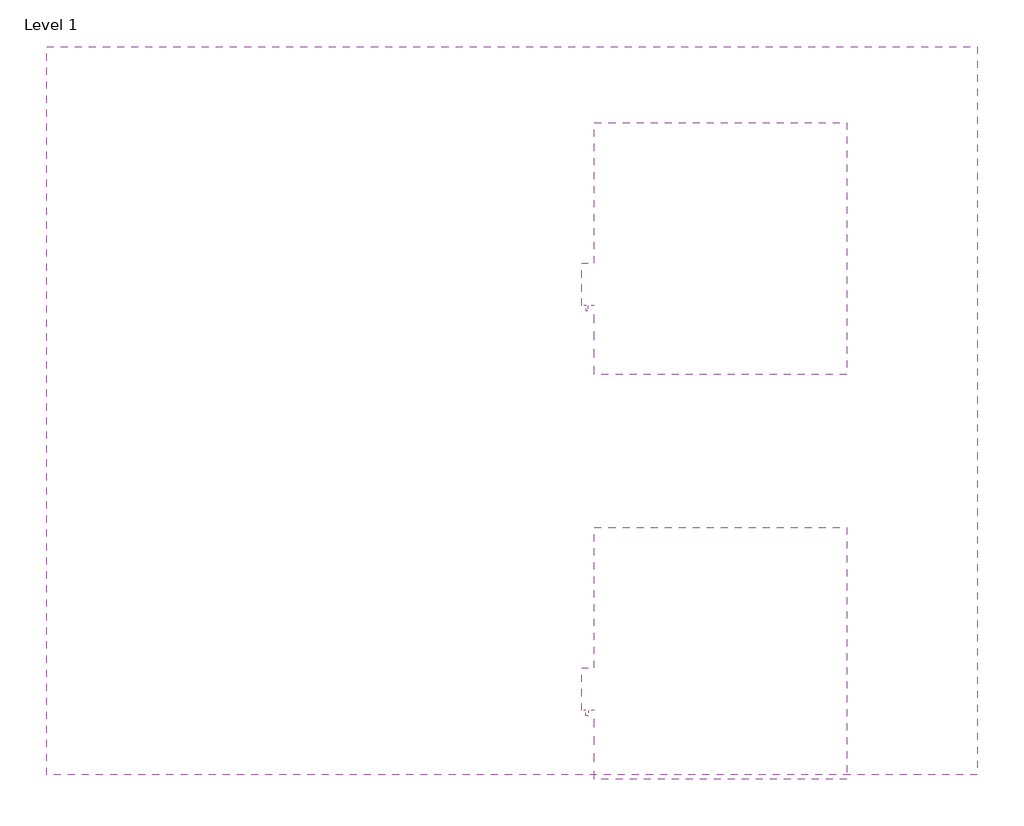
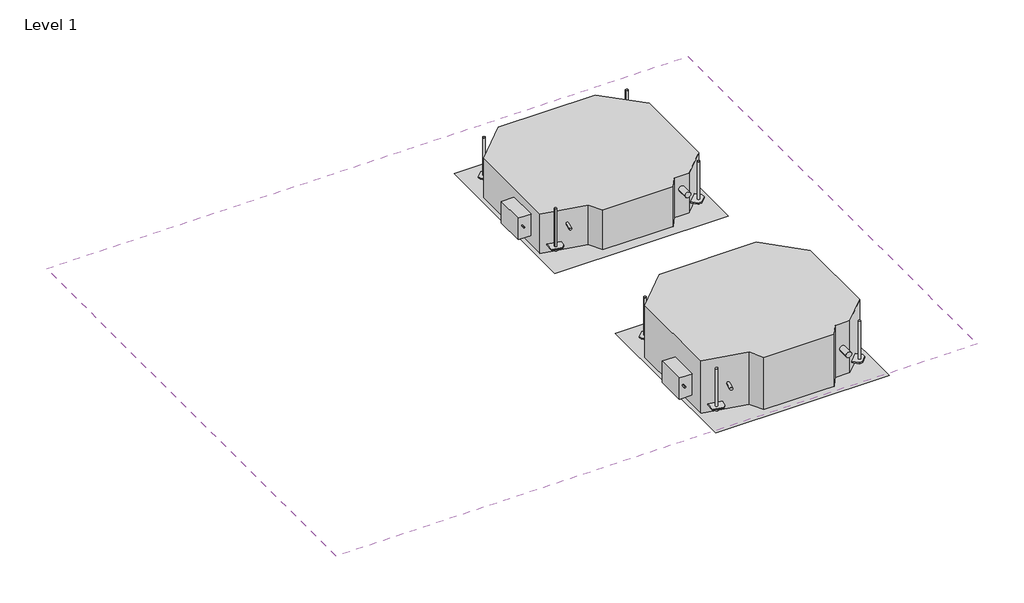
# One storey: 2 proxies, 1 covering.
"""IFC4 building model written with IfcOpenShell, lengths in millimetres."""

from ifc_helpers import new_model, si_unit, frame, origin, place, context, project, spatial, polyline, outline, extrude, transform, mapped, element, save
from components import proxy_48000_btu_h_e7defc70, proxy_9000_btu_h_d08c018a

model = new_model("IFC4")

# Units and contexts
model_context = context("Model", 3, world=origin())
ifc_project = project(units=[si_unit("LENGTHUNIT", "METRE", prefix="MILLI")], contexts=[model_context])

# Site, building, storey
site = spatial("IfcSite", under=ifc_project)
building = spatial("IfcBuilding", under=site)
storey = spatial("IfcBuildingStorey", under=building, Name="Level 1", Elevation=0.0)

# Proxies
placement = place(None, origin())
proxy_48000_btu_h_shape = proxy_48000_btu_h_e7defc70(model_context)
element("IfcBuildingElementProxy", 1, Name="Lennox-VRF-Ceiling_Compact-Cassette-V33A-2P_Series : 48000 Btu/h", ObjectType="Lennox-VRF-Ceiling_Compact-Cassette-V33A-2P_Series : 48000 Btu/h", at=placement, inside=storey, context=model_context, shape_type="MappedRepresentation", body=[
    mapped(proxy_48000_btu_h_shape, transform((4972.3305688, 741.1791027, 2438.4), x_axis=(1.0, 0.0, 0.0), y_axis=(0.0, -1.0, 0.0), z_axis=(0.0, 0.0, -1.0))),
])
proxy_9000_btu_h_shape = proxy_9000_btu_h_d08c018a(model_context)
element("IfcBuildingElementProxy", 2, Name="Lennox-VRF-Ceiling_Compact-Cassette-V33A-2P_Series : 9000 Btu/h", ObjectType="Lennox-VRF-Ceiling_Compact-Cassette-V33A-2P_Series : 9000 Btu/h", at=placement, inside=storey, context=model_context, shape_type="MappedRepresentation", body=[
    mapped(proxy_9000_btu_h_shape, transform((4972.3305688, 2265.1791027, 2438.4), x_axis=(1.0, 0.0, 0.0), y_axis=(0.0, -1.0, 0.0), z_axis=(0.0, 0.0, -1.0))),
])

# Covering
element("IfcCovering", 3, ObjectType="2' x 4' ACT System", at=placement, inside=storey, context=model_context, shape_type="SweptSolid", body=[
    extrude(outline(polyline([(5939.7983312, 3027.1791027), (5939.7983312, 283.9791027), (2434.5983312, 283.9791027), (2434.5983312, 3027.1791027), (5939.7983312, 3027.1791027)])), frame((0.0, 0.0, 2438.4), z_axis=(0.0, 0.0, 1.0), x_axis=(1.0, 0.0, 0.0)), (0.0, 0.0, 1.0), 57.15),
])

save(model, "model.ifc")
